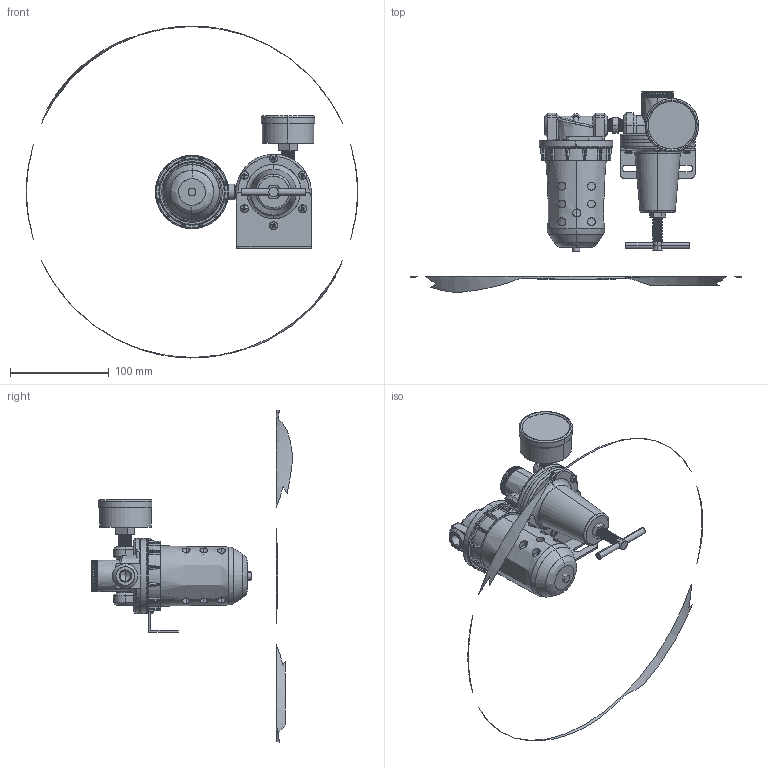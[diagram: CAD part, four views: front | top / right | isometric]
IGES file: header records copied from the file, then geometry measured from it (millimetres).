
Start section: SolidWorks IGES file using analytic representation for surfaces
Global section: file name: D:\Custom\3D繪製\FRL\FR系列\U628#-02#YB#.IGS; native system: SolidWorks 2014; preprocessor: SolidWorks 2014; author: Chieh_Lu; date: 160115.012829; units: millimetre
Bounding box: 335.1 x 203.9 x 335.68 mm (x, y, z)
Surface area: 124304.3 mm2 (no closed solid volume)
Topology: 0 solids, 0 shells, 1212 faces, 15627 edges, 15602 vertices
Faces by surface type: revolution 629, bspline 583
